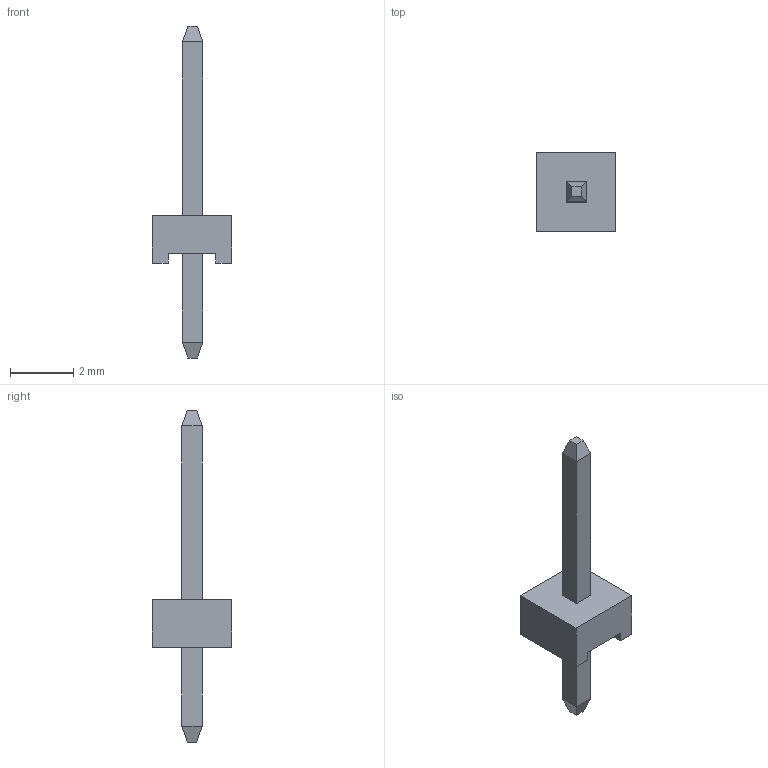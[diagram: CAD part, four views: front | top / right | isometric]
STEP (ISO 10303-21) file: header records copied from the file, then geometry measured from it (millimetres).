
FILE_DESCRIPTION (( 'STEP AP214' ), '1' );
FILE_NAME ('008261016110.STEP', '2023-05-10T06:28:24', ( '' ), ( '' ), 'SwSTEP 2.0', 'SolidWorks 2021', '' );
FILE_SCHEMA (( 'AUTOMOTIVE_DESIGN' ));
Length unit declared in the file: millimetre
Products named in the file (1): 008261016110
Bounding box: 2.5 x 2.5 x 10.5 mm (x, y, z)
Volume: 11.9 mm3; surface area: 50.7 mm2
Topology: 1 solids, 1 shells, 28 faces, 64 edges, 40 vertices
Faces by surface type: plane 28
Entity records: 798 total; most frequent: CARTESIAN_POINT 133, ORIENTED_EDGE 128, DIRECTION 122, LINE 64, EDGE_CURVE 64, VECTOR 64, VERTEX_POINT 40, EDGE_LOOP 30
